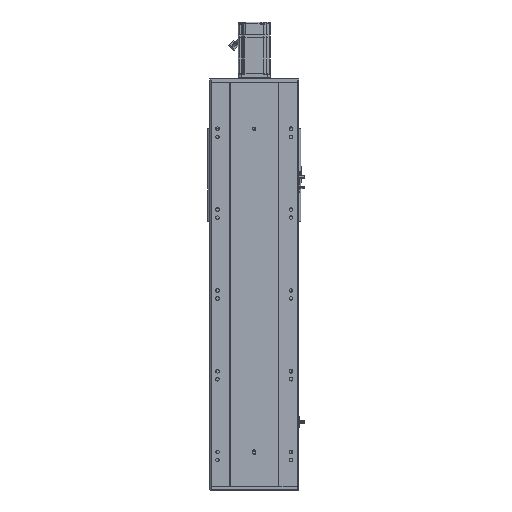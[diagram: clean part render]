
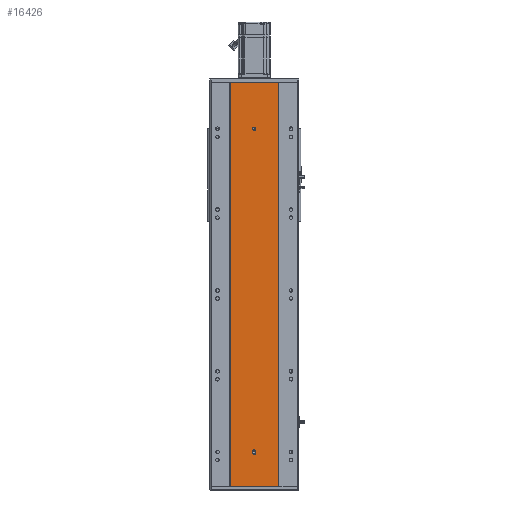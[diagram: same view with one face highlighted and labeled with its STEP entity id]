
A CAD part, front view. The second image highlights one B-rep face of the part: STEP entity #16426.
In plain terms, the highlighted planar face has unit normal (0, -1, 0).
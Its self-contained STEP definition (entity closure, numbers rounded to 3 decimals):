
#362 = LINE ( 'NONE', #48314, #41684 ) ;
#1618 = AXIS2_PLACEMENT_3D ( 'NONE', #2379, #3064, #14381 ) ;
#2058 = DIRECTION ( 'NONE',  ( 0., 0., -1. ) ) ;
#2379 = CARTESIAN_POINT ( 'NONE',  ( 0., 0., 886. ) ) ;
#3064 = DIRECTION ( 'NONE',  ( 0., -1., 0. ) ) ;
#4681 = DIRECTION ( 'NONE',  ( 0., 0., -1. ) ) ;
#5033 = CARTESIAN_POINT ( 'NONE',  ( -4., 0., 87.5 ) ) ;
#5279 = DIRECTION ( 'NONE',  ( 0., 0., -1. ) ) ;
#5843 = EDGE_CURVE ( 'NONE', #44958, #16358, #37276, .T. ) ;
#6481 = EDGE_CURVE ( 'NONE', #57849, #19857, #6845, .T. ) ;
#6845 = CIRCLE ( 'NONE', #70070, 4. ) ;
#7031 = DIRECTION ( 'NONE',  ( 0., 0., -1. ) ) ;
#10343 = DIRECTION ( 'NONE',  ( 0., 0., 1. ) ) ;
#11322 = VERTEX_POINT ( 'NONE', #17935 ) ;
#12723 = ORIENTED_EDGE ( 'NONE', *, *, #15855, .T. ) ;
#12790 = EDGE_CURVE ( 'NONE', #46477, #32121, #45310, .T. ) ;
#13155 = DIRECTION ( 'NONE',  ( 1., 0., 0. ) ) ;
#13218 = DIRECTION ( 'NONE',  ( 0., 0., -1. ) ) ;
#13940 = AXIS2_PLACEMENT_3D ( 'NONE', #21551, #32859, #5279 ) ;
#14381 = DIRECTION ( 'NONE',  ( 0., 0., -1. ) ) ;
#15855 = EDGE_CURVE ( 'NONE', #52166, #44958, #362, .T. ) ;
#16227 = CARTESIAN_POINT ( 'NONE',  ( 0., 0., 87.5 ) ) ;
#16358 = VERTEX_POINT ( 'NONE', #65306 ) ;
#16426 = ADVANCED_FACE ( 'NONE', ( #36546, #26411, #40741 ), #55619, .F. ) ;
#17935 = CARTESIAN_POINT ( 'NONE',  ( 0., 0., 80.5 ) ) ;
#18428 = DIRECTION ( 'NONE',  ( 0., -1., 0. ) ) ;
#18435 = AXIS2_PLACEMENT_3D ( 'NONE', #54895, #39742, #50373 ) ;
#19309 = ORIENTED_EDGE ( 'NONE', *, *, #5843, .T. ) ;
#19857 = VERTEX_POINT ( 'NONE', #5033 ) ;
#21551 = CARTESIAN_POINT ( 'NONE',  ( 0., 0., 886. ) ) ;
#21850 = CIRCLE ( 'NONE', #34455, 4. ) ;
#21855 = VECTOR ( 'NONE', #7031, 1000. ) ;
#22943 = EDGE_LOOP ( 'NONE', ( #29214, #50469, #55848, #54929, #35053 ) ) ;
#26154 = CARTESIAN_POINT ( 'NONE',  ( 0., 0., 84.5 ) ) ;
#26411 = FACE_BOUND ( 'NONE', #22943, .T. ) ;
#26841 = DIRECTION ( 'NONE',  ( 0., -1., 0. ) ) ;
#27713 = CARTESIAN_POINT ( 'NONE',  ( -60., 0., 1000. ) ) ;
#27885 = VECTOR ( 'NONE', #2058, 1000. ) ;
#29214 = ORIENTED_EDGE ( 'NONE', *, *, #66682, .F. ) ;
#32121 = VERTEX_POINT ( 'NONE', #34035 ) ;
#32859 = DIRECTION ( 'NONE',  ( 0., -1., 0. ) ) ;
#33003 = EDGE_CURVE ( 'NONE', #52955, #16358, #66781, .T. ) ;
#33291 = CARTESIAN_POINT ( 'NONE',  ( -4., 0., 84.5 ) ) ;
#34035 = CARTESIAN_POINT ( 'NONE',  ( 0., 0., 890. ) ) ;
#34455 = AXIS2_PLACEMENT_3D ( 'NONE', #26154, #26841, #4681 ) ;
#34651 = EDGE_CURVE ( 'NONE', #32121, #46477, #69680, .T. ) ;
#35053 = ORIENTED_EDGE ( 'NONE', *, *, #6481, .F. ) ;
#35211 = CARTESIAN_POINT ( 'NONE',  ( 4., 0., 84.5 ) ) ;
#36208 = CIRCLE ( 'NONE', #51011, 4. ) ;
#36385 = VERTEX_POINT ( 'NONE', #35211 ) ;
#36546 = FACE_BOUND ( 'NONE', #41531, .T. ) ;
#36987 = CARTESIAN_POINT ( 'NONE',  ( 4., 0., 84.5 ) ) ;
#37276 = LINE ( 'NONE', #66971, #50812 ) ;
#39742 = DIRECTION ( 'NONE',  ( 0., 1., 0. ) ) ;
#40741 = FACE_OUTER_BOUND ( 'NONE', #53231, .T. ) ;
#41531 = EDGE_LOOP ( 'NONE', ( #66502, #70035 ) ) ;
#41684 = VECTOR ( 'NONE', #53799, 1000. ) ;
#41723 = EDGE_CURVE ( 'NONE', #19857, #44181, #48956, .T. ) ;
#44181 = VERTEX_POINT ( 'NONE', #33291 ) ;
#44251 = VECTOR ( 'NONE', #60095, 1000. ) ;
#44958 = VERTEX_POINT ( 'NONE', #51788 ) ;
#45237 = CARTESIAN_POINT ( 'NONE',  ( -60., 0., 1000. ) ) ;
#45310 = CIRCLE ( 'NONE', #13940, 4. ) ;
#46477 = VERTEX_POINT ( 'NONE', #57683 ) ;
#48314 = CARTESIAN_POINT ( 'NONE',  ( -60., 0., 1000. ) ) ;
#48956 = LINE ( 'NONE', #55425, #21855 ) ;
#50373 = DIRECTION ( 'NONE',  ( 0., 0., 1. ) ) ;
#50469 = ORIENTED_EDGE ( 'NONE', *, *, #63587, .F. ) ;
#50812 = VECTOR ( 'NONE', #13155, 1000. ) ;
#51011 = AXIS2_PLACEMENT_3D ( 'NONE', #61395, #18428, #13218 ) ;
#51788 = CARTESIAN_POINT ( 'NONE',  ( -60., 0., 0. ) ) ;
#52166 = VERTEX_POINT ( 'NONE', #45237 ) ;
#52955 = VERTEX_POINT ( 'NONE', #65011 ) ;
#53231 = EDGE_LOOP ( 'NONE', ( #19309, #67368, #58336, #12723 ) ) ;
#53799 = DIRECTION ( 'NONE',  ( 0., 0., -1. ) ) ;
#54186 = EDGE_CURVE ( 'NONE', #44181, #11322, #21850, .T. ) ;
#54895 = CARTESIAN_POINT ( 'NONE',  ( -60., 0., 1000. ) ) ;
#54929 = ORIENTED_EDGE ( 'NONE', *, *, #41723, .F. ) ;
#55006 = VECTOR ( 'NONE', #10343, 1000. ) ;
#55425 = CARTESIAN_POINT ( 'NONE',  ( -4., 0., 84.5 ) ) ;
#55619 = PLANE ( 'NONE',  #18435 ) ;
#55848 = ORIENTED_EDGE ( 'NONE', *, *, #54186, .F. ) ;
#57683 = CARTESIAN_POINT ( 'NONE',  ( 0., 0., 882. ) ) ;
#57849 = VERTEX_POINT ( 'NONE', #68813 ) ;
#58336 = ORIENTED_EDGE ( 'NONE', *, *, #59627, .F. ) ;
#59580 = LINE ( 'NONE', #27713, #44251 ) ;
#59627 = EDGE_CURVE ( 'NONE', #52166, #52955, #59580, .T. ) ;
#59692 = DIRECTION ( 'NONE',  ( 0., -1., 0. ) ) ;
#60095 = DIRECTION ( 'NONE',  ( 1., 0., 0. ) ) ;
#61395 = CARTESIAN_POINT ( 'NONE',  ( 0., 0., 84.5 ) ) ;
#63587 = EDGE_CURVE ( 'NONE', #11322, #36385, #36208, .T. ) ;
#65011 = CARTESIAN_POINT ( 'NONE',  ( 60., 0., 1000. ) ) ;
#65306 = CARTESIAN_POINT ( 'NONE',  ( 60., 0., 0. ) ) ;
#66269 = CARTESIAN_POINT ( 'NONE',  ( 60., 0., 1000. ) ) ;
#66502 = ORIENTED_EDGE ( 'NONE', *, *, #12790, .F. ) ;
#66682 = EDGE_CURVE ( 'NONE', #36385, #57849, #69381, .T. ) ;
#66781 = LINE ( 'NONE', #66269, #27885 ) ;
#66971 = CARTESIAN_POINT ( 'NONE',  ( -60., 0., 0. ) ) ;
#67368 = ORIENTED_EDGE ( 'NONE', *, *, #33003, .F. ) ;
#68813 = CARTESIAN_POINT ( 'NONE',  ( 4., 0., 87.5 ) ) ;
#69381 = LINE ( 'NONE', #36987, #55006 ) ;
#69680 = CIRCLE ( 'NONE', #1618, 4. ) ;
#70035 = ORIENTED_EDGE ( 'NONE', *, *, #34651, .F. ) ;
#70041 = DIRECTION ( 'NONE',  ( 0., 0., -1. ) ) ;
#70070 = AXIS2_PLACEMENT_3D ( 'NONE', #16227, #59692, #70041 ) ;
